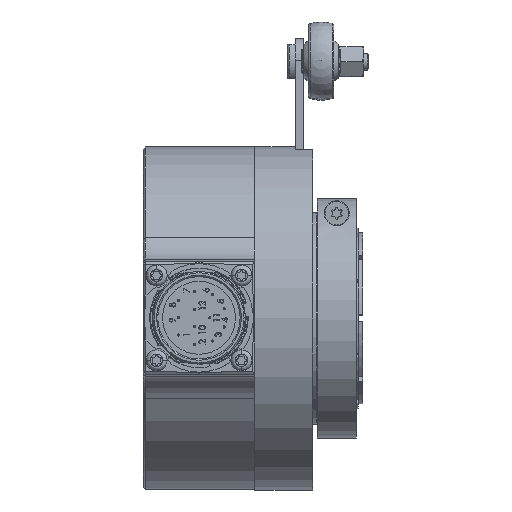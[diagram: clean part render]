
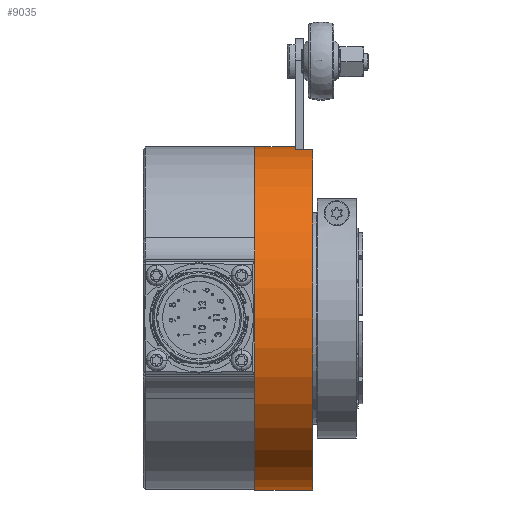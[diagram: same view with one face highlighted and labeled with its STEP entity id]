
A CAD part, top view. The second image highlights one B-rep face of the part: STEP entity #9035.
In plain terms, the highlighted cylindrical face has radius 40.075 mm (diameter 80.15 mm), a partial arc.
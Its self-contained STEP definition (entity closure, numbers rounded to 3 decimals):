
#765 = CARTESIAN_POINT ( 'NONE',  ( -12.775, -40.075, 0. ) ) ;
#2139 = ORIENTED_EDGE ( 'NONE', *, *, #32502, .F. ) ;
#2612 = DIRECTION ( 'NONE',  ( 0., 1., 0. ) ) ;
#2639 = CARTESIAN_POINT ( 'NONE',  ( 13.5, -40.075, 0. ) ) ;
#5040 = CARTESIAN_POINT ( 'NONE',  ( 13.5, 0., 0. ) ) ;
#5470 = CARTESIAN_POINT ( 'NONE',  ( -12.775, 40.075, 0. ) ) ;
#6099 = AXIS2_PLACEMENT_3D ( 'NONE', #38414, #39216, #23753 ) ;
#6444 = VERTEX_POINT ( 'NONE', #34704 ) ;
#7628 = VERTEX_POINT ( 'NONE', #16622 ) ;
#8474 = EDGE_CURVE ( 'NONE', #7628, #28238, #24751, .T. ) ;
#8867 = VERTEX_POINT ( 'NONE', #14577 ) ;
#8875 = CIRCLE ( 'NONE', #17316, 40.075 ) ;
#9035 = ADVANCED_FACE ( 'NONE', ( #30340 ), #33410, .T. ) ;
#9226 = ORIENTED_EDGE ( 'NONE', *, *, #33398, .T. ) ;
#9450 = ORIENTED_EDGE ( 'NONE', *, *, #8474, .T. ) ;
#13040 = VECTOR ( 'NONE', #21532, 1000. ) ;
#14506 = EDGE_CURVE ( 'NONE', #18939, #6444, #8875, .T. ) ;
#14577 = CARTESIAN_POINT ( 'NONE',  ( 9.5, 39.468, 6.95 ) ) ;
#14803 = DIRECTION ( 'NONE',  ( -1., 0., 0. ) ) ;
#15196 = CARTESIAN_POINT ( 'NONE',  ( 0., 0., 0. ) ) ;
#15310 = AXIS2_PLACEMENT_3D ( 'NONE', #24444, #39512, #15512 ) ;
#15512 = DIRECTION ( 'NONE',  ( 0., 1., 0. ) ) ;
#15595 = LINE ( 'NONE', #765, #24550 ) ;
#16622 = CARTESIAN_POINT ( 'NONE',  ( 9.5, 40.075, 0. ) ) ;
#16816 = CARTESIAN_POINT ( 'NONE',  ( 0., -40.075, 0. ) ) ;
#16926 = EDGE_CURVE ( 'NONE', #18939, #26279, #15595, .T. ) ;
#17316 = AXIS2_PLACEMENT_3D ( 'NONE', #5040, #29622, #20094 ) ;
#18939 = VERTEX_POINT ( 'NONE', #2639 ) ;
#20094 = DIRECTION ( 'NONE',  ( 0., 1., 0. ) ) ;
#21306 = CARTESIAN_POINT ( 'NONE',  ( 0., 40.075, 0. ) ) ;
#21532 = DIRECTION ( 'NONE',  ( -1., 0., 0. ) ) ;
#22303 = AXIS2_PLACEMENT_3D ( 'NONE', #15196, #14803, #2612 ) ;
#22754 = CARTESIAN_POINT ( 'NONE',  ( -12.775, 39.468, 6.95 ) ) ;
#23620 = CIRCLE ( 'NONE', #6099, 40.075 ) ;
#23753 = DIRECTION ( 'NONE',  ( 0., 1., 0. ) ) ;
#24246 = ORIENTED_EDGE ( 'NONE', *, *, #16926, .F. ) ;
#24444 = CARTESIAN_POINT ( 'NONE',  ( -12.775, 0., 0. ) ) ;
#24550 = VECTOR ( 'NONE', #28160, 1000. ) ;
#24751 = LINE ( 'NONE', #5470, #13040 ) ;
#24842 = EDGE_CURVE ( 'NONE', #6444, #8867, #34744, .T. ) ;
#25191 = VECTOR ( 'NONE', #34954, 1000. ) ;
#26279 = VERTEX_POINT ( 'NONE', #16816 ) ;
#27190 = EDGE_LOOP ( 'NONE', ( #24246, #36204, #30150, #9226, #9450, #2139 ) ) ;
#27433 = CIRCLE ( 'NONE', #22303, 40.075 ) ;
#28160 = DIRECTION ( 'NONE',  ( -1., 0., 0. ) ) ;
#28238 = VERTEX_POINT ( 'NONE', #21306 ) ;
#29622 = DIRECTION ( 'NONE',  ( -1., 0., 0. ) ) ;
#30150 = ORIENTED_EDGE ( 'NONE', *, *, #24842, .T. ) ;
#30340 = FACE_OUTER_BOUND ( 'NONE', #27190, .T. ) ;
#32502 = EDGE_CURVE ( 'NONE', #26279, #28238, #27433, .T. ) ;
#33398 = EDGE_CURVE ( 'NONE', #8867, #7628, #23620, .T. ) ;
#33410 = CYLINDRICAL_SURFACE ( 'NONE', #15310, 40.075 ) ;
#34704 = CARTESIAN_POINT ( 'NONE',  ( 13.5, 39.468, 6.95 ) ) ;
#34744 = LINE ( 'NONE', #22754, #25191 ) ;
#34954 = DIRECTION ( 'NONE',  ( -1., 0., 0. ) ) ;
#36204 = ORIENTED_EDGE ( 'NONE', *, *, #14506, .T. ) ;
#38414 = CARTESIAN_POINT ( 'NONE',  ( 9.5, 0., 0. ) ) ;
#39216 = DIRECTION ( 'NONE',  ( -1., 0., 0. ) ) ;
#39512 = DIRECTION ( 'NONE',  ( -1., 0., 0. ) ) ;
